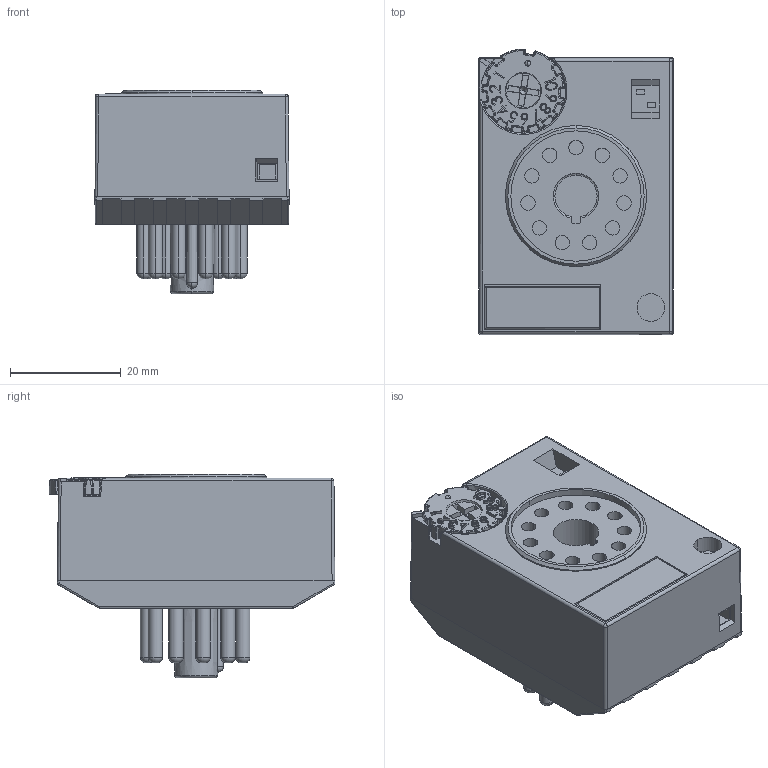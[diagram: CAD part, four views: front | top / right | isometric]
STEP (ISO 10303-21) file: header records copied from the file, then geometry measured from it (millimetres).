
FILE_DESCRIPTION (( 'STEP AP214' ), '1' );
FILE_NAME ('CT3-A30_CT3-K30.STEP', '2024-04-15T07:18:00', ( '' ), ( '' ), 'SwSTEP 2.0', 'SolidWorks 2022', '' );
FILE_SCHEMA (( 'AUTOMOTIVE_DESIGN' ));
Length unit declared in the file: millimetre
Products named in the file (1): CT3-A30_CT3-K30
Bounding box: 35 x 51.5 x 36.7 mm (x, y, z)
Volume: 38652.5 mm3; surface area: 11528.1 mm2
Topology: 1 solids, 18 shells, 747 faces, 1781 edges, 1123 vertices
Faces by surface type: plane 313, bspline 148, cylinder 133, torus 58, cone 56, sphere 39
Entity records: 34192 total; most frequent: CARTESIAN_POINT 10773, ORIENTED_EDGE 3536, DIRECTION 3112, EDGE_CURVE 1768, AXIS2_PLACEMENT_3D 1134, VERTEX_POINT 1116, LINE 844, VECTOR 844
